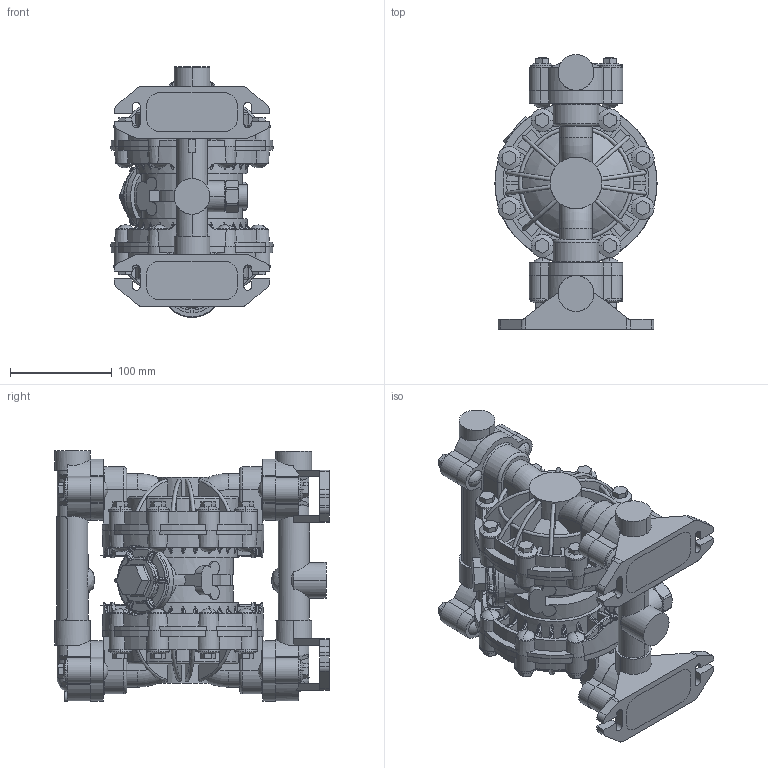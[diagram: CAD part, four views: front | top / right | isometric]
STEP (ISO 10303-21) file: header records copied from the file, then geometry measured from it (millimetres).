
FILE_DESCRIPTION((''),'2;1');
FILE_NAME('24G745-EN-G_PRT','2019-12-31T17:30:24',('qusrh3'),(''),'CREO PARAMETRIC BY PTC INC, 2019030','CREO PARAMETRIC BY PTC INC, 2019030','');
FILE_SCHEMA(('CONFIG_CONTROL_DESIGN'));
Length unit declared in the file: inch
Products named in the file (1): 24G745-EN-G_PRT
Bounding box: 159.18 x 269.43 x 245.99 mm (x, y, z)
Surface area: 653993.5 mm2 (no closed solid volume)
Topology: 0 solids, 145 shells, 2759 faces, 8224 edges, 5425 vertices
Faces by surface type: plane 1091, cylinder 742, bspline 332, torus 290, sphere 175, cone 101, extrusion 28
Entity records: 109498 total; most frequent: CARTESIAN_POINT 37985, ORIENTED_EDGE 15192, DIRECTION 14614, EDGE_CURVE 8176, AXIS2_PLACEMENT_3D 5543, VERTEX_POINT 5425, VECTOR 3528, LINE 3500
